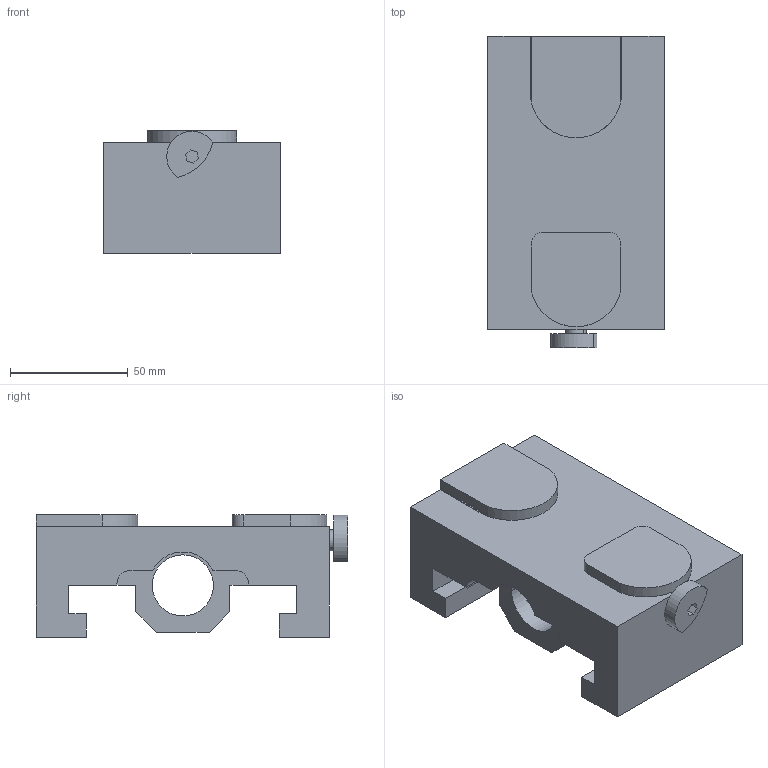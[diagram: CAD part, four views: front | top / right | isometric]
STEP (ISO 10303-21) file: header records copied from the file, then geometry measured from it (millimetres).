
FILE_DESCRIPTION (( 'STEP AP214' ), '1' );
FILE_NAME ('81440.STEP', '2020-10-27T12:50:04', ( '' ), ( '' ), 'SwSTEP 2.0', 'SolidWorks 2019', '' );
FILE_SCHEMA (( 'AUTOMOTIVE_DESIGN' ));
Length unit declared in the file: millimetre
Products named in the file (3): 81440; 81440-01_hart; 44251-03
Assembly tree (2 placements, depth 2):
  81440
    81440-01_hart
    44251-03
Bounding box: 75 x 132.4 x 52 mm (x, y, z)
Volume: 306482 mm3; surface area: 49284.8 mm2
Topology: 2 solids, 2 shells, 83 faces, 222 edges, 148 vertices
Faces by surface type: plane 56, cylinder 27
Entity records: 3005 total; most frequent: CARTESIAN_POINT 458, DIRECTION 456, ORIENTED_EDGE 444, EDGE_CURVE 222, LINE 164, VECTOR 164, VERTEX_POINT 148, AXIS2_PLACEMENT_3D 146
